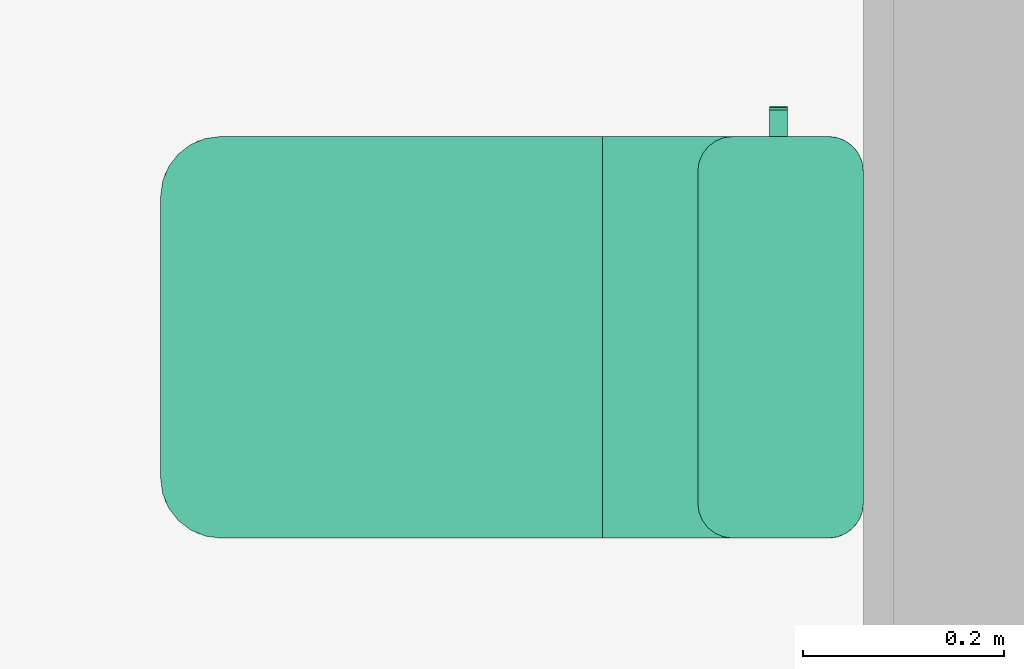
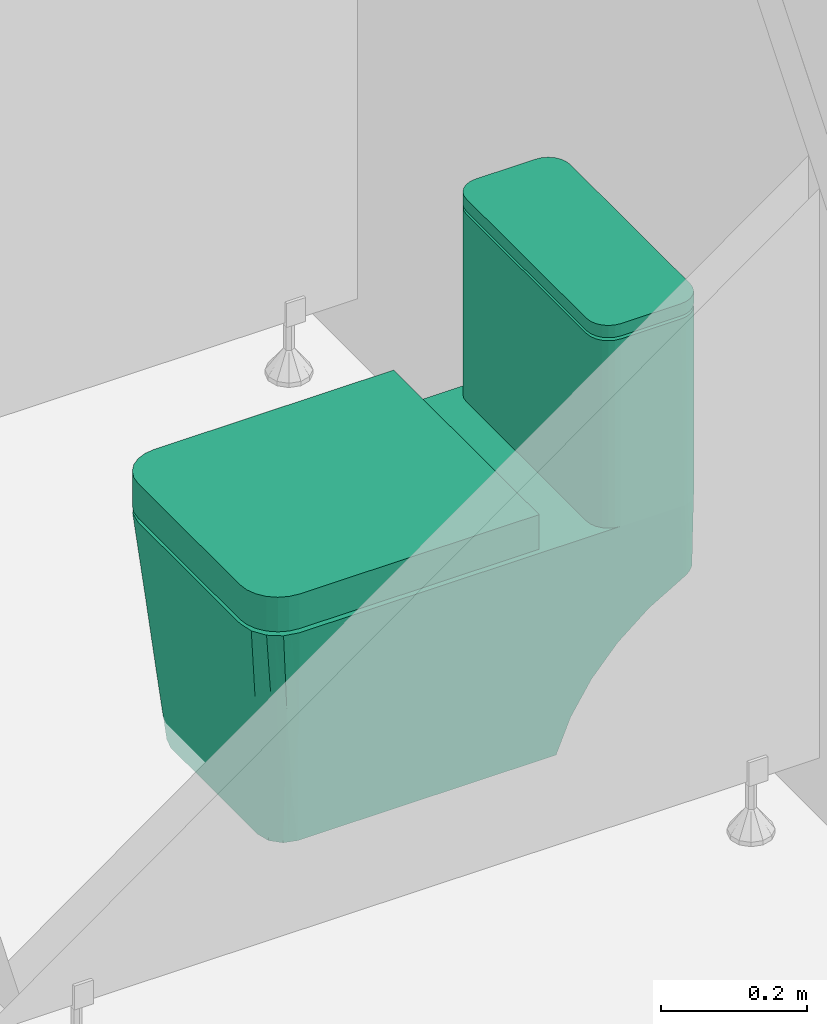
# One storey, part 69 of 74: 1 flow terminal.
"""IFC2X3 building model written with IfcOpenShell, lengths in millimetres."""

from ifc_helpers import new_model, entity, si_unit, converted_unit, derived_unit, direction, frame, origin, place, context, subcontext, project, spatial, faceted_brep, source, transform, mapped, material, material_list, type_object, type_shapes, element, save


model = new_model("IFC2X3")

# Units and contexts
model_context = context("Model", 3, precision=0.01, world=origin(), true_north=direction((6.123031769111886e-17, 1.0)))
body_context = subcontext(model_context, "Body", "Model", "MODEL_VIEW")
ifc_project = project(units=[si_unit("LENGTHUNIT", "METRE", prefix="MILLI"), si_unit("AREAUNIT", "SQUARE_METRE"), si_unit("VOLUMEUNIT", "CUBIC_METRE"), converted_unit("PLANEANGLEUNIT", "DEGREE", entity("IfcRatioMeasure", 0.017453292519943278), si_unit("PLANEANGLEUNIT", "RADIAN"), dimensions=[0, 0, 0, 0, 0, 0, 0]), si_unit("MASSUNIT", "GRAM", prefix="KILO"), derived_unit("MASSDENSITYUNIT", [(si_unit("MASSUNIT", "GRAM", prefix="KILO"), 1), (si_unit("LENGTHUNIT", "METRE"), -3)]), derived_unit("MOMENTOFINERTIAUNIT", [(si_unit("LENGTHUNIT", "METRE"), 4)]), si_unit("TIMEUNIT", "SECOND"), si_unit("FREQUENCYUNIT", "HERTZ"), si_unit("THERMODYNAMICTEMPERATUREUNIT", "DEGREE_CELSIUS"), derived_unit("THERMALTRANSMITTANCEUNIT", [(si_unit("MASSUNIT", "GRAM", prefix="KILO"), 1), (si_unit("THERMODYNAMICTEMPERATUREUNIT", "KELVIN"), -1), (si_unit("TIMEUNIT", "SECOND"), -3)]), derived_unit("VOLUMETRICFLOWRATEUNIT", [(si_unit("LENGTHUNIT", "METRE"), 3), (si_unit("TIMEUNIT", "SECOND"), -1)]), derived_unit("MASSFLOWRATEUNIT", [(si_unit("MASSUNIT", "GRAM", prefix="KILO"), 1), (si_unit("TIMEUNIT", "SECOND"), -1)]), derived_unit("ROTATIONALFREQUENCYUNIT", [(si_unit("TIMEUNIT", "SECOND"), -1)]), si_unit("ELECTRICCURRENTUNIT", "AMPERE"), si_unit("ELECTRICVOLTAGEUNIT", "VOLT"), si_unit("POWERUNIT", "WATT"), si_unit("FORCEUNIT", "NEWTON", prefix="KILO"), si_unit("ILLUMINANCEUNIT", "LUX"), si_unit("LUMINOUSFLUXUNIT", "LUMEN"), si_unit("LUMINOUSINTENSITYUNIT", "CANDELA"), derived_unit("USERDEFINED", [(si_unit("MASSUNIT", "GRAM", prefix="KILO"), -1), (si_unit("LENGTHUNIT", "METRE"), -2), (si_unit("TIMEUNIT", "SECOND"), 3), (si_unit("LUMINOUSFLUXUNIT", "LUMEN"), 1)]), derived_unit("SOUNDPOWERUNIT", [(si_unit("MASSUNIT", "GRAM", prefix="KILO"), 1), (si_unit("LENGTHUNIT", "METRE"), 2), (si_unit("TIMEUNIT", "SECOND"), -3)]), derived_unit("SOUNDPRESSUREUNIT", [(si_unit("MASSUNIT", "GRAM", prefix="KILO"), 1), (si_unit("LENGTHUNIT", "METRE"), -1), (si_unit("TIMEUNIT", "SECOND"), -2)]), derived_unit("LINEARVELOCITYUNIT", [(si_unit("LENGTHUNIT", "METRE"), 1), (si_unit("TIMEUNIT", "SECOND"), -1)]), si_unit("PRESSUREUNIT", "PASCAL"), derived_unit("USERDEFINED", [(si_unit("LENGTHUNIT", "METRE"), -2), (si_unit("MASSUNIT", "GRAM", prefix="KILO"), 1), (si_unit("TIMEUNIT", "SECOND"), -2)]), derived_unit("LINEARFORCEUNIT", [(si_unit("MASSUNIT", "GRAM", prefix="KILO"), 1), (si_unit("LENGTHUNIT", "METRE"), 1), (si_unit("TIMEUNIT", "SECOND"), -2), (si_unit("LENGTHUNIT", "METRE"), -1)]), derived_unit("PLANARFORCEUNIT", [(si_unit("MASSUNIT", "GRAM", prefix="KILO"), 1), (si_unit("LENGTHUNIT", "METRE"), 1), (si_unit("TIMEUNIT", "SECOND"), -2), (si_unit("LENGTHUNIT", "METRE"), -2)])], contexts=[model_context])

# Site, building, storey, space
site_placement = place(None, frame((-14167.972527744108, -657.2125860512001, 0.0)))
site = spatial("IfcSite", under=ifc_project, at=site_placement, Name="Default", CompositionType="ELEMENT")
building_placement = place(site_placement, origin())
building = spatial("IfcBuilding", under=site, at=building_placement, Name="Sample Building", CompositionType="ELEMENT")
storey_placement = place(building_placement, frame((0.0, 0.0, 4800.0)))
storey = spatial("IfcBuildingStorey", under=building, at=storey_placement, Name="지상 2층", CompositionType="ELEMENT", Elevation=4800.000000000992)
space_placement = place(storey_placement, origin())
space = spatial("IfcSpace", under=storey, at=space_placement, Name="189", CompositionType="ELEMENT", InteriorOrExteriorSpace="INTERNAL")

# Flow terminal
ifc_material_1 = material(Name="KBIMS-스테인리스 스틸_도금")
ifc_material_2 = material(Name="KBIMS-도기")
ifc_material_list_1 = material_list([ifc_material_1, ifc_material_2])
ifc_material_list_2 = material_list([ifc_material_1, ifc_material_2, ifc_material_2])
distribution_element_type = type_object("IfcDistributionElementType", Name="PF127-서양식 탱크일체형:PF127-서양식 탱크일체형", material=ifc_material_list_2)
shared_shape = source(origin(), body_context, "Body", "Brep", [
    faceted_brep([(-200.0, -93.78427766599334, 671.547634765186), (-226.3198216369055, -93.78427766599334, 671.5476347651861), (-228.9221007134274, -93.78427766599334, 670.469735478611), (-230.0, -93.78427766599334, 667.8674564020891), (-230.0, -93.78427766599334, 663.5153317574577), (-229.51628854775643, -93.78427766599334, 661.8557929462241), (-228.21666089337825, -93.78427766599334, 660.71605008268), (-215.9758797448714, -93.78427766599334, 655.0080800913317), (-211.766557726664, -93.78427766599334, 653.5792078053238), (-207.34774888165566, -93.78427766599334, 653.095269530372), (-200.0, -93.78427766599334, 653.095269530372), (-230.0, -75.66503821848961, 663.5153317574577), (-230.0, -75.66503821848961, 667.8674564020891), (-228.9221007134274, -75.66503821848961, 670.469735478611), (-226.31982163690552, -75.66503821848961, 671.5476347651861), (-200.0, -75.66503821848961, 671.547634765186), (-200.0, -75.66503821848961, 653.095269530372), (-207.34774888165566, -75.66503821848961, 653.095269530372), (-211.766557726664, -75.66503821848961, 653.5792078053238), (-215.97587974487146, -75.66503821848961, 655.0080800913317), (-228.21666089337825, -75.66503821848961, 660.71605008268), (-229.51628854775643, -75.66503821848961, 661.8557929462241)], [[[0, 1, 2, 3, 4, 5, 6, 7, 8, 9, 10]], [[11, 12, 13, 14, 15, 16, 17, 18, 19, 20, 21]], [[1, 14, 13, 2]], [[13, 12, 3, 2]], [[4, 3, 12, 11]], [[4, 11, 21, 5]], [[21, 20, 6, 5]], [[7, 6, 20, 19]], [[7, 19, 18, 8]], [[18, 17, 9, 8]], [[10, 9, 17, 16]], [[0, 10, 16, 15]], [[1, 0, 15, 14]]]),
    faceted_brep([(140.0, -700.0, 445.0), (155.52914270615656, -697.9555495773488, 445.0), (170.0, -691.9615242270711, 445.0), (182.42640687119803, -682.4264068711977, 445.0), (191.96152422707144, -670.0, 445.0), (197.9555495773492, -655.5291427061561, 445.0), (200.0, -640.0, 445.0), (200.0, -260.0, 445.0), (-200.0, -260.0, 445.0), (-200.0, -640.0, 445.0), (-197.95554957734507, -655.5291427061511, 445.0), (-191.96152422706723, -670.0, 445.0), (-182.42640687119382, -682.4264068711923, 445.0), (-170.0, -691.9615242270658, 445.0), (-155.52914270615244, -697.9555495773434, 445.0), (-140.0, -700.0, 445.0), (-200.0, -640.0, 386.96747142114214), (-200.0, -260.0, 386.96747142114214), (200.0, -260.0, 386.96747142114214), (200.0, -640.0, 386.96747142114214), (197.9555495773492, -655.5291427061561, 386.96747142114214), (191.96152422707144, -670.0, 386.96747142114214), (182.42640687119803, -682.4264068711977, 386.96747142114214), (170.0, -691.9615242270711, 386.96747142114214), (155.52914270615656, -697.9555495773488, 386.96747142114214), (140.0, -700.0, 386.96747142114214), (-140.0, -700.0, 386.96747142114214), (-155.52914270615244, -697.9555495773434, 386.96747142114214), (-170.0, -691.9615242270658, 386.96747142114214), (-182.42640687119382, -682.4264068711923, 386.96747142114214), (-191.96152422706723, -670.0, 386.96747142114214), (-197.95554957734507, -655.5291427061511, 386.96747142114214)], [[[0, 1, 2, 3, 4, 5, 6, 7, 8, 9, 10, 11, 12, 13, 14, 15]], [[16, 17, 18, 19, 20, 21, 22, 23, 24, 25, 26, 27, 28, 29, 30, 31]], [[1, 24, 23, 2]], [[2, 23, 22, 3]], [[25, 24, 1, 0]], [[4, 21, 20, 5]], [[5, 20, 19, 6]], [[3, 22, 21, 4]], [[7, 6, 19, 18]], [[8, 7, 18, 17]], [[9, 8, 17, 16]], [[10, 31, 30, 11]], [[11, 30, 29, 12]], [[9, 16, 31, 10]], [[13, 28, 27, 14]], [[14, 27, 26, 15]], [[12, 29, 28, 13]], [[0, 15, 26, 25]]]),
    faceted_brep([(165.0, 0.0, 694.4321747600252), (165.0, 0.0, 380.0), (164.13685378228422, 0.0, 314.40088745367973), (163.42105263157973, 0.0, 260.0), (-163.42105263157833, 0.0, 260.0), (-164.1368541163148, 0.0, 314.40091283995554), (-165.0, 0.0, 380.0), (-165.0, 0.0, 694.4321747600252), (-165.0, 0.0, 720.0), (165.0, 0.0, 720.0), (165.0, 0.0, 699.4321747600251), (-165.0, 0.0, 699.4321747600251), (200.0, -35.0, 694.4321747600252), (200.0, -130.0, 694.4321747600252), (200.0, -130.0, 380.0), (200.0, -35.0, 380.0), (200.0, -35.0, 720.0), (200.0, -130.0, 720.0), (200.0, -130.0, 699.4321747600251), (200.0, -35.0, 699.4321747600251), (-198.80740392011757, -139.05866657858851, 694.4321747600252), (-198.80740392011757, -139.0586665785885, 380.0), (-195.31088913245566, -147.5000000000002, 380.0), (-195.31088913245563, -147.50000000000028, 694.4321747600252), (-198.80740392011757, -139.05866657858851, 699.4321747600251), (-195.31088913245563, -147.50000000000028, 699.4321747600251), (-195.3108891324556, -147.50000000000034, 720.0), (-198.80740392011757, -139.05866657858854, 720.0), (-189.74873734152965, -154.74873734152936, 380.0), (-189.74873734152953, -154.74873734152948, 694.4321747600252), (-189.74873734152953, -154.74873734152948, 699.4321747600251), (-189.74873734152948, -154.74873734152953, 720.0), (-200.0, -130.0, 380.0), (-200.0, -130.0, 694.4321747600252), (-200.0, -130.0, 699.4321747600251), (-200.0, -130.0, 720.0), (-182.5000000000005, -160.31088913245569, 694.4321747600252), (-182.50000000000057, -160.31088913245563, 380.0), (-174.05866657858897, -163.80740392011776, 380.0), (-174.05866657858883, -163.8074039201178, 694.4321747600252), (-174.05866657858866, -163.80740392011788, 720.0), (-182.50000000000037, -160.31088913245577, 720.0), (-182.5000000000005, -160.31088913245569, 699.4321747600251), (-174.05866657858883, -163.8074039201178, 699.4321747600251), (-165.0, -165.0, 380.0), (-165.0, -165.0, 694.4321747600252), (-165.0, -165.0, 720.0), (-165.0, -165.0, 699.4321747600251), (165.0, -165.0, 694.4321747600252), (165.0, -165.0, 380.0), (165.0, -165.0, 720.0), (165.0, -165.0, 699.4321747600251), (-200.0, -35.0, 694.4321747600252), (-200.0, -35.0, 380.0), (-200.0, -35.0, 720.0), (-200.0, -35.0, 699.4321747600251), (198.80740392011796, -25.941333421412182, 699.4321747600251), (195.310889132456, -17.500000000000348, 699.4321747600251), (195.31088913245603, -17.500000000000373, 720.0), (198.80740392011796, -25.94133342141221, 720.0), (189.74873734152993, -10.251262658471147, 720.0), (189.74873734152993, -10.251262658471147, 699.4321747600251), (174.05866657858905, -1.1925960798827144, 699.4321747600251), (174.0586665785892, -1.192596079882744, 720.0), (182.50000000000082, -4.68911086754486, 699.4321747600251), (182.50000000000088, -4.68911086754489, 720.0), (174.05866657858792, -163.80740392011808, 694.4321747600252), (174.05866657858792, -163.80740392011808, 380.0), (182.49999999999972, -160.31088913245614, 380.0), (182.49999999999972, -160.31088913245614, 694.4321747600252), (174.05866657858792, -163.80740392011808, 699.4321747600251), (182.49999999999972, -160.31088913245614, 699.4321747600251), (182.5000000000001, -160.31088913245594, 720.0), (174.0586665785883, -163.80740392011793, 720.0), (189.74873734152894, -154.74873734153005, 380.0), (189.74873734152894, -154.74873734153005, 694.4321747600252), (189.74873734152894, -154.74873734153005, 699.4321747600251), (189.74873734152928, -154.74873734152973, 720.0), (195.31088913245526, -147.50000000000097, 694.4321747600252), (195.31088913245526, -147.50000000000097, 380.0), (198.8074039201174, -139.05866657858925, 380.0), (198.8074039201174, -139.05866657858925, 694.4321747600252), (195.31088913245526, -147.50000000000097, 699.4321747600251), (198.8074039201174, -139.05866657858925, 699.4321747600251), (198.80740392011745, -139.0586665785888, 720.0), (195.3108891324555, -147.50000000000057, 720.0), (-174.0586665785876, -1.1925960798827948, 720.0), (-174.0586665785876, -1.1925960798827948, 699.4321747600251), (-182.49999999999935, -4.689110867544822, 720.0), (-182.49999999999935, -4.689110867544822, 699.4321747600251), (-189.7487373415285, -10.251262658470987, 720.0), (-189.7487373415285, -10.251262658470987, 699.4321747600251), (-198.8074039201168, -25.941333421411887, 720.0), (-195.31088913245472, -17.50000000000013, 720.0), (-195.31088913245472, -17.50000000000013, 699.4321747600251), (-198.8074039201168, -25.941333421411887, 699.4321747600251), (-174.0586665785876, -1.192596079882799, 694.4321747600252), (-171.07672145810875, -0.5315585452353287, 380.0), (-176.96898132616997, -2.1101309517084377, 380.0), (-182.49999999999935, -4.689110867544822, 694.4321747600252), (-182.49783433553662, -4.687860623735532, 380.0), (-187.49533036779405, -8.18656844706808, 380.0), (-189.7487373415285, -10.251262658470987, 694.4321747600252), (-195.31088913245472, -17.50000000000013, 694.4321747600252), (-195.3094689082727, -17.4975403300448, 380.0), (-197.88846700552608, -23.02716666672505, 380.0), (-198.8074039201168, -25.941333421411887, 694.4321747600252), (-199.4680424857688, -28.921015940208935, 380.0), (-191.8095995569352, -12.500102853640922, 380.0), (198.80740392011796, -25.941333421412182, 694.4321747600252), (199.46810048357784, -28.92134479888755, 380.0), (197.88863680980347, -23.02763311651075, 380.0), (195.310889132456, -17.500000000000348, 694.4321747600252), (195.3097905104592, -17.498097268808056, 380.0), (191.81007551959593, -12.500669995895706, 380.0), (189.74873734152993, -10.251262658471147, 694.4321747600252), (182.50000000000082, -4.68911086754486, 694.4321747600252), (182.49858765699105, -4.6882954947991, 380.0), (176.9698186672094, -2.110435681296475, 380.0), (171.0775985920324, -0.5317131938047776, 380.0), (174.05866657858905, -1.1925960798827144, 694.4321747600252), (187.49595914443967, -8.187095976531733, 380.0), (160.0, -210.0, 0.0), (160.0, -620.0, 0.0), (156.6733983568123, -632.4150463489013, 0.0), (154.64101615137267, -640.0, 0.0), (147.3205080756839, -647.3205080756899, 0.0), (140.0, -654.6410161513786, 0.0), (132.41504577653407, -656.673398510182, 0.0), (120.0, -660.0, 0.0), (-120.0, -660.0, 0.0), (-132.4150463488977, -656.6733983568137, 0.0), (-140.0, -654.6410161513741, 0.0), (-147.32050807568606, -647.3205080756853, 0.0), (-154.64101615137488, -640.0, 0.0), (-156.67339851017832, -632.4150457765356, 0.0), (-160.0, -620.0, 0.0), (-160.0, -210.0, 0.0), (-200.0, -640.0, 380.0), (-197.71638597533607, -651.4805029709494, 380.0), (-195.43277195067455, -662.961005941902, 380.0), (-188.92958941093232, -672.6937064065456, 380.0), (-182.42640687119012, -682.4264068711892, 380.0), (-172.69370640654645, -688.9295894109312, 380.0), (-162.96100594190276, -695.4327719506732, 380.0), (-151.48050297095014, -697.7163859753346, 380.0), (-140.0, -700.0, 380.0), (140.0, -700.0, 380.0), (151.4805029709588, -697.7163859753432, 380.0), (162.9610059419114, -695.4327719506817, 380.0), (172.69370640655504, -688.9295894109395, 380.0), (182.42640687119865, -682.4264068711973, 380.0), (188.9295894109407, -672.6937064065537, 380.0), (195.4327719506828, -662.96100594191, 380.0), (197.7163859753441, -651.4805029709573, 380.0), (200.0, -640.0, 380.0), (181.88767422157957, -630.9438371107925, 207.93290510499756), (169.05616288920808, -624.5280814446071, 86.03354744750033), (166.41215116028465, -190.4623972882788, 60.91543602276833), (172.39104658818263, -161.03070825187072, 117.71494258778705), (177.76891724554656, -122.53079215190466, 168.80471383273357), (182.39485897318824, -76.04296457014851, 212.75116024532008), (186.13906689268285, -22.871683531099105, 248.32113548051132), (193.0948286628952, -28.957975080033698, 314.4008722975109), (184.4509041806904, -13.399793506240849, 253.3937042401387), (192.48236559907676, -21.712362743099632, 318.068486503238), (185.85897664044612, -18.078391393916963, 250.93098822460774), (169.4535256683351, -0.47508644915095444, 318.71364296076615), (176.81269594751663, -2.7853559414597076, 322.8232335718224), (184.85554366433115, -8.564241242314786, 317.5126549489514), (188.64536552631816, -13.805323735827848, 311.79954638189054), (181.93237214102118, -9.070973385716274, 255.5993773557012), (168.85282113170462, -0.6257823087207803, 259.7058617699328), (178.3784036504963, -5.339995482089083, 257.4452533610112), (173.94033185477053, -2.453774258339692, 258.83869964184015), (-193.09483031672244, -28.957976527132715, 314.4008880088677), (-192.48224700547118, -21.712007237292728, 318.06820833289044), (-185.85897664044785, -18.07839139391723, 250.93098822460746), (-169.4535400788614, -0.47508841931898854, 318.7138102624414), (-188.64533012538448, -13.805305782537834, 311.79916939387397), (-184.4509041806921, -13.399793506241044, 253.39370424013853), (-184.85525539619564, -8.563839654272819, 317.5148648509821), (-178.37840365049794, -5.3399954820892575, 257.44525336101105), (-181.93237214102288, -9.070973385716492, 255.59937735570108), (-186.13906689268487, -22.87168353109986, 248.32113548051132), (-176.81199260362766, -2.7850356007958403, 322.8227486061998), (-173.9403318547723, -2.4537742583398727, 258.8386996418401), (-168.85282113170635, -0.6257823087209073, 259.70586176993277), (-182.39485897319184, -76.04296457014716, 212.75116024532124), (-177.7689172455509, -122.53079215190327, 168.8047138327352), (-172.3910465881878, -161.03070825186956, 117.71494258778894), (-166.4121511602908, -190.46239728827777, 60.9154360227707), (-170.9438402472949, -625.4719201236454, 103.96648234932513), (-181.88767486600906, -630.9438374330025, 207.932911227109), (167.84723921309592, -644.8835703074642, 113.26853664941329), (182.70359618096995, -650.4613144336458, 244.34084888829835), (172.7916320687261, -658.8131569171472, 202.6373284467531), (163.28959461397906, -663.2895949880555, 167.00838556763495), (161.3612464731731, -651.454814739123, 94.73545488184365), (130.94384024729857, -681.8876804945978, 207.93296469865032), (137.1466297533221, -675.5797921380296, 155.949684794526), (142.81243148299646, -686.5857660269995, 259.99216222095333), (174.39327642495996, -671.2588406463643, 273.5041922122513), (151.45063444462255, -661.3663368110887, 94.74858838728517), (144.3377504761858, -669.7672265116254, 125.97246068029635), (152.4807217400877, -683.0768420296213, 253.0686677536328), (158.81315653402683, -672.7916326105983, 202.63733033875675), (125.47192012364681, -670.9438402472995, 103.96648234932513), (169.1268939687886, -634.5961485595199, 96.37357614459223), (-130.94383711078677, -681.8876742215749, 207.93290510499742), (-124.52808144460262, -669.056162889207, 86.03354744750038), (-144.88357030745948, -667.8472392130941, 113.26853664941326), (-150.46131443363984, -682.7035961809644, 244.34084888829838), (-158.8131569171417, -672.7916320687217, 202.6373284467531), (-163.28959498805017, -663.2895946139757, 167.00838556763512), (-151.4548147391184, -661.3612464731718, 94.73545488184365), (-175.57979213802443, -637.1466297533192, 155.94968479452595), (-186.58576602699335, -642.8124314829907, 259.99216222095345), (-171.25884064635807, -674.3932764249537, 273.50419221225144), (-161.36633681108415, -651.4506344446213, 94.74858838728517), (-169.76722651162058, -644.3377504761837, 125.97246068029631), (-172.79163261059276, -658.8131565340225, 202.63733033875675), (-134.5961485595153, -669.1268939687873, 96.37357614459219), (-183.07684202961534, -652.480721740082, 253.06866775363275), (-185.0, -150.0, 699.4321747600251), (-185.0, -15.0, 699.4321747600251), (-185.0, -15.0, 694.4321747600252), (-185.0, -150.0, 694.4321747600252), (185.0, -150.0, 699.4321747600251), (185.0, -150.0, 694.4321747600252), (185.0, -15.0, 699.4321747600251), (185.0, -15.0, 694.4321747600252)], [[[0, 1, 2, 3, 4, 5, 6, 7]], [[8, 9, 10, 11]], [[12, 13, 14, 15]], [[16, 17, 18, 19]], [[20, 21, 22, 23]], [[24, 25, 26, 27]], [[23, 22, 28, 29]], [[25, 30, 31, 26]], [[32, 21, 20, 33]], [[34, 24, 27, 35]], [[36, 37, 38, 39]], [[40, 41, 42, 43]], [[39, 38, 44, 45]], [[46, 40, 43, 47]], [[29, 28, 37, 36]], [[30, 42, 41, 31]], [[48, 45, 44, 49]], [[50, 46, 47, 51]], [[33, 52, 53, 32]], [[35, 54, 55, 34]], [[56, 57, 58, 59]], [[19, 56, 59, 16]], [[60, 58, 57, 61]], [[62, 10, 9, 63]], [[64, 62, 63, 65]], [[61, 64, 65, 60]], [[66, 67, 68, 69]], [[70, 71, 72, 73]], [[69, 68, 74, 75]], [[71, 76, 77, 72]], [[49, 67, 66, 48]], [[51, 70, 73, 50]], [[78, 79, 80, 81]], [[82, 83, 84, 85]], [[81, 80, 14, 13]], [[83, 18, 17, 84]], [[75, 74, 79, 78]], [[76, 82, 85, 77]], [[86, 8, 11, 87]], [[88, 86, 87, 89]], [[90, 88, 89, 91]], [[92, 93, 94, 95]], [[54, 92, 95, 55]], [[91, 94, 93, 90]], [[9, 8, 86, 88, 90, 93, 92, 54, 35, 27, 26, 31, 41, 40, 46, 50, 73, 72, 77, 85, 84, 17, 16, 59, 58, 60, 65, 63]], [[96, 97, 98]], [[99, 98, 100]], [[99, 100, 101]], [[6, 97, 7]], [[7, 97, 96]], [[98, 99, 96]], [[101, 102, 99]], [[103, 104, 105]], [[106, 105, 107]], [[52, 107, 53]], [[102, 108, 103]], [[108, 102, 101]], [[104, 103, 108]], [[105, 106, 103]], [[107, 52, 106]], [[109, 110, 111]], [[112, 111, 113]], [[112, 113, 114]], [[15, 110, 12]], [[12, 110, 109]], [[111, 112, 109]], [[114, 115, 112]], [[116, 117, 118]], [[118, 119, 120]], [[1, 0, 119]], [[115, 121, 116]], [[121, 115, 114]], [[117, 116, 121]], [[118, 120, 116]], [[119, 0, 120]], [[122, 123, 124, 125, 126, 127, 128, 129, 130, 131, 132, 133, 134, 135, 136, 137]], [[21, 32, 138, 139, 140, 141, 142, 143, 144, 145, 146, 147, 148, 149, 150, 151, 152, 153, 154, 155, 14, 80, 79, 74, 68, 67, 49, 44, 38, 37, 28, 22]], [[14, 155, 156, 157, 123, 122, 158, 159, 160, 161, 162, 163, 15]], [[164, 165, 166]], [[1, 119, 167]], [[118, 117, 168]], [[169, 170, 171]], [[121, 169, 168]], [[117, 121, 168]], [[2, 1, 167, 3]], [[170, 114, 113]], [[172, 167, 168]], [[110, 15, 163]], [[173, 174, 168]], [[171, 173, 169]], [[114, 169, 121]], [[111, 165, 170]], [[111, 110, 165]], [[3, 167, 172]], [[165, 163, 166]], [[168, 169, 173]], [[169, 114, 170]], [[172, 168, 174]], [[171, 170, 164]], [[164, 170, 165]], [[168, 167, 118]], [[166, 163, 162]], [[163, 165, 110]], [[167, 119, 118]], [[170, 113, 111]], [[175, 176, 177]], [[98, 97, 178]], [[176, 105, 179]], [[176, 179, 180]], [[108, 181, 179]], [[182, 183, 181]], [[175, 107, 176]], [[6, 5, 4, 178]], [[184, 175, 177]], [[176, 180, 177]], [[182, 185, 186]], [[179, 183, 180]], [[105, 104, 179]], [[101, 181, 108]], [[185, 100, 98]], [[185, 98, 178]], [[185, 178, 187]], [[97, 6, 178]], [[101, 100, 185]], [[181, 101, 185]], [[107, 105, 176]], [[185, 182, 181]], [[185, 187, 186]], [[175, 53, 107]], [[178, 4, 187]], [[181, 183, 179]], [[179, 104, 108]], [[138, 32, 53, 175, 184, 188, 189, 190, 191, 137, 136, 192, 193]], [[194, 195, 196]], [[197, 126, 198]], [[199, 200, 201]], [[156, 154, 195]], [[202, 152, 151]], [[196, 152, 202]], [[127, 203, 204]], [[194, 198, 125]], [[150, 205, 206]], [[203, 206, 204]], [[124, 194, 125]], [[198, 194, 196]], [[200, 199, 207]], [[123, 157, 156, 208]], [[194, 124, 208]], [[206, 197, 202]], [[194, 208, 195]], [[150, 202, 151]], [[156, 195, 208]], [[123, 208, 124]], [[126, 197, 203]], [[197, 198, 196]], [[126, 125, 198]], [[202, 197, 196]], [[197, 206, 203]], [[127, 204, 128]], [[126, 203, 127]], [[206, 205, 204]], [[202, 150, 206]], [[128, 204, 200]], [[195, 152, 196]], [[148, 205, 149]], [[152, 195, 153]], [[205, 148, 201]], [[128, 200, 207]], [[205, 201, 200]], [[129, 128, 207]], [[205, 200, 204]], [[147, 199, 201]], [[154, 156, 155]], [[154, 153, 195]], [[149, 205, 150]], [[148, 147, 201]], [[146, 209, 210, 130, 129, 207, 199, 147]], [[211, 212, 213]], [[214, 133, 215]], [[193, 216, 217]], [[209, 145, 212]], [[218, 143, 142]], [[213, 143, 218]], [[134, 219, 220]], [[211, 215, 132]], [[142, 141, 218]], [[219, 221, 220]], [[131, 211, 132]], [[215, 211, 213]], [[216, 193, 192]], [[130, 210, 209, 222]], [[211, 131, 222]], [[221, 214, 218]], [[211, 222, 212]], [[218, 141, 221]], [[209, 212, 222]], [[130, 222, 131]], [[133, 214, 219]], [[214, 215, 213]], [[133, 132, 215]], [[218, 214, 213]], [[214, 221, 219]], [[134, 220, 135]], [[133, 219, 134]], [[221, 223, 220]], [[141, 223, 221]], [[135, 220, 216]], [[212, 143, 213]], [[223, 141, 140]], [[143, 212, 144]], [[223, 139, 217]], [[135, 216, 192]], [[223, 217, 216]], [[136, 135, 192]], [[223, 216, 220]], [[138, 193, 217]], [[145, 209, 146]], [[145, 144, 212]], [[139, 223, 140]], [[139, 138, 217]], [[186, 187, 4]], [[182, 186, 4]], [[4, 180, 183]], [[182, 4, 183]], [[4, 3, 162, 184]], [[172, 174, 3]], [[173, 3, 174]], [[171, 3, 173]], [[164, 3, 171]], [[164, 166, 3]], [[162, 3, 166]], [[177, 180, 4]], [[184, 162, 161, 188]], [[190, 189, 160, 159]], [[160, 189, 188, 161]], [[191, 190, 159, 158]], [[191, 158, 122, 137]], [[177, 4, 184]], [[224, 225, 226, 227]], [[228, 224, 227, 229]], [[230, 228, 229, 231]], [[225, 230, 231, 226]], [[78, 81, 229]], [[229, 75, 78]], [[81, 13, 229]], [[231, 229, 13]], [[13, 12, 231]], [[12, 109, 231]], [[231, 109, 112]], [[112, 115, 231]], [[115, 116, 231]], [[120, 231, 116]], [[231, 120, 0]], [[231, 0, 226]], [[226, 0, 7]], [[226, 7, 96]], [[96, 99, 226]], [[102, 226, 99]], [[103, 226, 102]], [[226, 103, 106]], [[106, 52, 226]], [[33, 226, 52]], [[33, 227, 226]], [[20, 227, 33]], [[23, 227, 20]], [[29, 227, 23]], [[29, 36, 227]], [[39, 227, 36]], [[227, 39, 45]], [[48, 227, 45]], [[229, 48, 66]], [[48, 229, 227]], [[66, 69, 229]], [[75, 229, 69]], [[57, 56, 230]], [[230, 61, 57]], [[56, 19, 230]], [[228, 230, 19]], [[19, 18, 228]], [[18, 83, 228]], [[228, 83, 82]], [[82, 76, 228]], [[76, 71, 228]], [[70, 228, 71]], [[228, 70, 51]], [[224, 228, 51]], [[51, 47, 224]], [[224, 47, 43]], [[43, 42, 224]], [[30, 224, 42]], [[25, 224, 30]], [[224, 25, 24]], [[24, 34, 224]], [[55, 224, 34]], [[55, 225, 224]], [[95, 225, 55]], [[94, 225, 95]], [[91, 225, 94]], [[91, 89, 225]], [[87, 225, 89]], [[225, 87, 11]], [[10, 225, 11]], [[230, 10, 62]], [[230, 225, 10]], [[62, 64, 230]], [[61, 230, 64]]]),
])
type_shapes(distribution_element_type, [shared_shape])
flow_terminal_placement = place(space_placement, frame((40737.963755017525, 24567.31306358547, 0.0), z_axis=(0.0, 0.0, 1.0), x_axis=(0.0, -1.0, 0.0)))
element("IfcFlowTerminal", 1, at=flow_terminal_placement, inside=space, type_object=distribution_element_type, material=ifc_material_list_1, Name="PF127-서양식 탱크일체형:PF127-서양식 탱크일체형", ObjectType="PF127-서양식 탱크일체형:PF127-서양식 탱크일체형", context=body_context, shape_type="MappedRepresentation", body=[
    mapped(shared_shape, transform((0.0, 0.0, 0.0), scale=1.0)),
])

save(model, "model.ifc")
